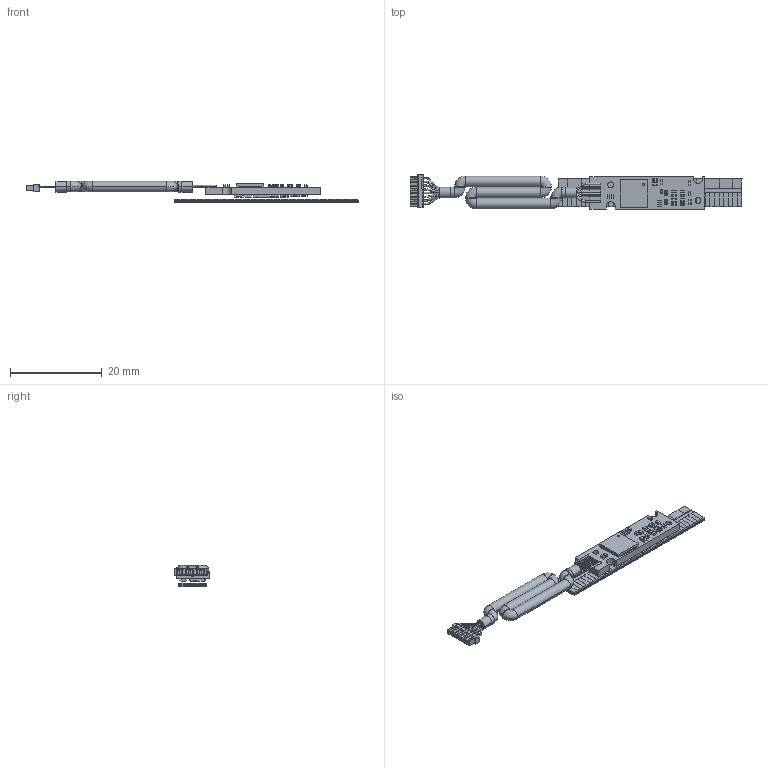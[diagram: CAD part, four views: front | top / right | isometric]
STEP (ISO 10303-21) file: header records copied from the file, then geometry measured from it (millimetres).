
FILE_DESCRIPTION((''),'2;1');
FILE_NAME('_________ASM_1_ASM','2026-04-29T',('guxinfeng'),(''),'PRO/ENGINEER BY PARAMETRIC TECHNOLOGY CORPORATION, 2012480','PRO/ENGINEER BY PARAMETRIC TECHNOLOGY CORPORATION, 2012480','');
FILE_SCHEMA(('CONFIG_CONTROL_DESIGN'));
Products named in the file (131): PRT0019__1; PRT0020__1; PRT0022__1; PRT0023__1; ASM0025__ASM_2_ASM; 棠掑004X__A_1_ASM; PRT0053__1; ﾏﾟ_6_3_1; PRT0054__1; 盄旰-004X__A_2_ASM; 崝樓遵僅酗僅_4_ASM; OPEN_CASCADE_STEP_TRANSLATO-206; BOARD_ASM_1_ASM; OPEN_CASCADE_STEP_TRANSLATO-786; OPEN_CASCADE_STEP_TRANSLAT-1259; TERMINAL-772_ASM_1_ASM; OPEN_CASCADE_STEP_TRANSLAT-1755; MID_BODY-1745_ASM_1_ASM; 6084318352_ASM_1_ASM; C6_ASM_1_ASM; OPEN_CASCADE_STEP_TRANSLAT-2141; OPEN_CASCADE_STEP_TRANSLAT-2614; TERMINAL-2127_ASM_1_ASM; OPEN_CASCADE_STEP_TRANSLAT-3110; MID_BODY-3100_ASM_1_ASM; 6423078112_ASM_1_ASM; C5_ASM_1_ASM; C7_ASM_1_ASM; C3_ASM_1_ASM; MID_BODY-3539_1; OPEN_CASCADE_STEP_TRANSLAT-3725; TERMINAL-3715_ASM_1_ASM; MARK-4037_1; 5367737200_ASM_1_ASM; R3_ASM_1_ASM; R13_ASM_1_ASM; C12_ASM_1_ASM; QFN-052_RGB8421504_1; U2_ASM_1_ASM; OPEN_CASCADE_STEP_TRANSLA-25900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
Assembly tree (162 placements, depth 7):
  _________ASM_1_ASM
    崝樓遵僅酗僅_4_ASM
      棠掑004X__A_1_ASM
        ASM0025__ASM_2_ASM
          PRT0019__1
          PRT0020__1
          PRT0022__1
          PRT0023__1
      盄旰-004X__A_2_ASM
        PRT0053__1
        ﾏﾟ_6_3_1
        PRT0054__1
    ELS-004Y_V1_6爾盄_A_1_ASM
      PCB_ASM_1_ASM
        BOARD_ASM_1_ASM
          OPEN_CASCADE_STEP_TRANSLATO-206
        C6_ASM_1_ASM
          6084318352_ASM_1_ASM
            TERMINAL-772_ASM_1_ASM
              OPEN_CASCADE_STEP_TRANSLATO-786
              OPEN_CASCADE_STEP_TRANSLAT-1259
            MID_BODY-1745_ASM_1_ASM
              OPEN_CASCADE_STEP_TRANSLAT-1755
        C5_ASM_1_ASM
          6423078112_ASM_1_ASM
            TERMINAL-2127_ASM_1_ASM
              OPEN_CASCADE_STEP_TRANSLAT-2141
              OPEN_CASCADE_STEP_TRANSLAT-2614
            MID_BODY-3100_ASM_1_ASM
              OPEN_CASCADE_STEP_TRANSLAT-3110
        C7_ASM_1_ASM
          6423078112_ASM_1_ASM
            TERMINAL-2127_ASM_1_ASM
              OPEN_CASCADE_STEP_TRANSLAT-2141
              OPEN_CASCADE_STEP_TRANSLAT-2614
            MID_BODY-3100_ASM_1_ASM
              OPEN_CASCADE_STEP_TRANSLAT-3110
        C3_ASM_1_ASM
          6084318352_ASM_1_ASM
            TERMINAL-772_ASM_1_ASM
              OPEN_CASCADE_STEP_TRANSLATO-786
              OPEN_CASCADE_STEP_TRANSLAT-1259
            MID_BODY-1745_ASM_1_ASM
              OPEN_CASCADE_STEP_TRANSLAT-1755
        R3_ASM_1_ASM
          5367737200_ASM_1_ASM
            MID_BODY-3539_1
            TERMINAL-3715_ASM_1_ASM  x2
              OPEN_CASCADE_STEP_TRANSLAT-3725
            MARK-4037_1
        R13_ASM_1_ASM
          5367737200_ASM_1_ASM
            MID_BODY-3539_1
            TERMINAL-3715_ASM_1_ASM  x2
              OPEN_CASCADE_STEP_TRANSLAT-3725
            MARK-4037_1
        C12_ASM_1_ASM
          6423078112_ASM_1_ASM
            TERMINAL-2127_ASM_1_ASM
              OPEN_CASCADE_STEP_TRANSLAT-2141
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Bounding box: 72.23 x 7.51 x 4.67 mm (x, y, z)
Volume: 815 mm3; surface area: 3460.2 mm2
Topology: 140 solids, 140 shells, 2768 faces, 6965 edges, 4328 vertices
Faces by surface type: plane 2049, cylinder 509, sphere 152, torus 30, bspline 26, revolution 2
Entity records: 71099 total; most frequent: CARTESIAN_POINT 11999, DIRECTION 9460, ORIENTED_EDGE 9394, EDGE_CURVE 4697, VECTOR 4120, LINE 4120, PRESENTATION_STYLE_ASSIGNMENT 3489, STYLED_ITEM 3489
